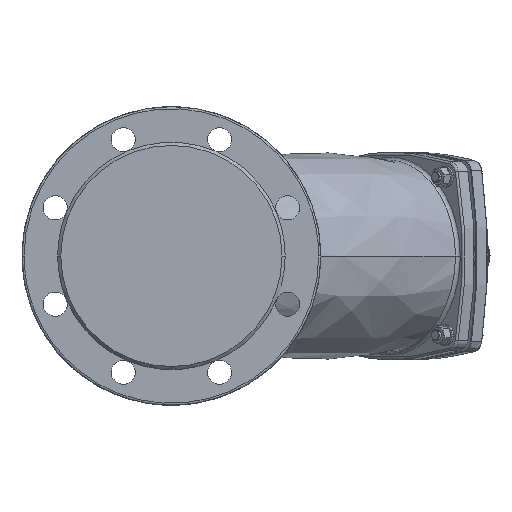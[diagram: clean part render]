
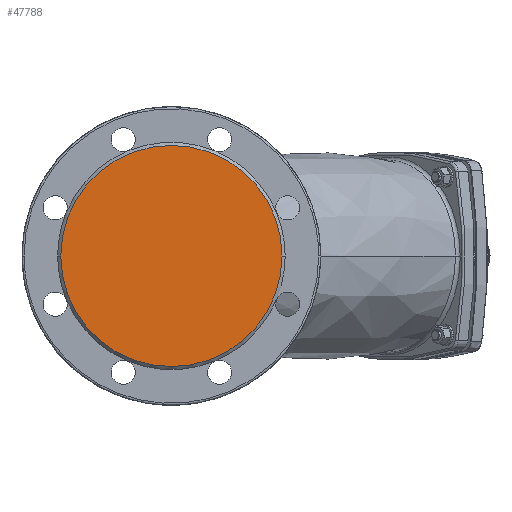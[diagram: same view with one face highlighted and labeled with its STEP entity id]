
A CAD part, left-side view. The second image highlights one B-rep face of the part: STEP entity #47788.
In plain terms, the highlighted planar face has unit normal (-1, 0, 0).
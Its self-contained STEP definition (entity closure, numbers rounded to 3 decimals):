
#11893 = CARTESIAN_POINT ( 'NONE',  ( 0., 0., 0. ) ) ;
#18883 = CIRCLE ( 'NONE', #25425, 105.5 ) ;
#20496 = VERTEX_POINT ( 'NONE', #44257 ) ;
#24932 = ORIENTED_EDGE ( 'NONE', *, *, #46760, .F. ) ;
#25163 = CARTESIAN_POINT ( 'NONE',  ( 0., 0., 0. ) ) ;
#25425 = AXIS2_PLACEMENT_3D ( 'NONE', #11893, #49996, #80737 ) ;
#26909 = DIRECTION ( 'NONE',  ( 1., 0., 0. ) ) ;
#28213 = EDGE_CURVE ( 'NONE', #20496, #57628, #18883, .T. ) ;
#33464 = CARTESIAN_POINT ( 'NONE',  ( 0., 0., 0. ) ) ;
#37063 = PLANE ( 'NONE',  #46216 ) ;
#43474 = ORIENTED_EDGE ( 'NONE', *, *, #28213, .F. ) ;
#43575 = CIRCLE ( 'NONE', #46160, 105.5 ) ;
#44257 = CARTESIAN_POINT ( 'NONE',  ( 0., 105.5, 0. ) ) ;
#46160 = AXIS2_PLACEMENT_3D ( 'NONE', #33464, #26909, #58083 ) ;
#46216 = AXIS2_PLACEMENT_3D ( 'NONE', #25163, #80911, #68218 ) ;
#46760 = EDGE_CURVE ( 'NONE', #57628, #20496, #43575, .T. ) ;
#47227 = EDGE_LOOP ( 'NONE', ( #43474, #24932 ) ) ;
#47788 = ADVANCED_FACE ( 'NONE', ( #63280 ), #37063, .F. ) ;
#49996 = DIRECTION ( 'NONE',  ( 1., 0., 0. ) ) ;
#57628 = VERTEX_POINT ( 'NONE', #75710 ) ;
#58083 = DIRECTION ( 'NONE',  ( 0., 1., 0. ) ) ;
#63280 = FACE_OUTER_BOUND ( 'NONE', #47227, .T. ) ;
#68218 = DIRECTION ( 'NONE',  ( 0., 0., -1. ) ) ;
#75710 = CARTESIAN_POINT ( 'NONE',  ( 0., -105.5, 0. ) ) ;
#80737 = DIRECTION ( 'NONE',  ( 0., 1., 0. ) ) ;
#80911 = DIRECTION ( 'NONE',  ( 1., 0., 0. ) ) ;
